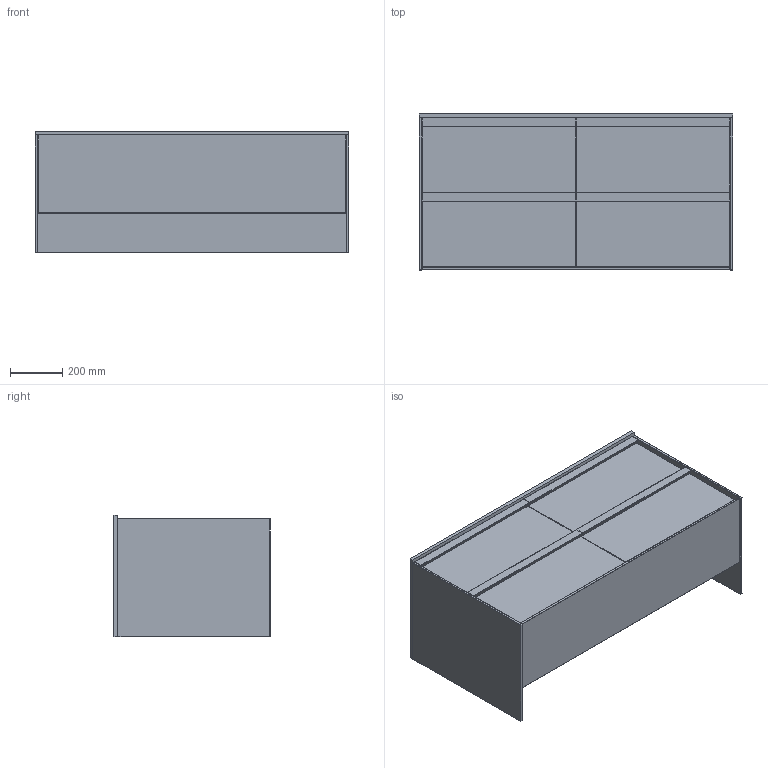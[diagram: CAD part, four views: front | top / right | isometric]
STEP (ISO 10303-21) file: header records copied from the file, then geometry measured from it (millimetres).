
FILE_DESCRIPTION (( 'STEP AP203' ), '1' );
FILE_NAME ('H2-Kommod-120-shell-drawing.STEP', '2024-10-23T06:50:44', ( '' ), ( '' ), 'SwSTEP 2.0', 'SolidWorks 2024', '' );
FILE_SCHEMA (( 'CONFIG_CONTROL_DESIGN' ));
Length unit declared in the file: millimetre
Products named in the file (6): Stenskiva-1200x465x15; Sida-584x452x10; H2-Kommod-120-shell-drawing; handtag-590x35x20; lådfront-590x287x10; Botten-1180x300x10
Assembly tree (12 placements, depth 2):
  H2-Kommod-120-shell-drawing
    Botten-1180x300x10
    handtag-590x35x20  x4
    lådfront-590x287x10  x4
    Sida-584x452x10  x2
    Stenskiva-1200x465x15
Bounding box: 1200 x 599 x 465 mm (x, y, z)
Volume: 25369696.4 mm3; surface area: 4654262.2 mm2
Topology: 12 solids, 12 shells, 292 faces, 632 edges, 276 vertices
Faces by surface type: cylinder 132, sphere 88, plane 72
Entity records: 3492 total; most frequent: DIRECTION 550, CARTESIAN_POINT 433, ORIENTED_EDGE 408, AXIS2_PLACEMENT_3D 221, EDGE_CURVE 204, FACE_OUTER_BOUND 110, EDGE_LOOP 110, ADVANCED_FACE 110
